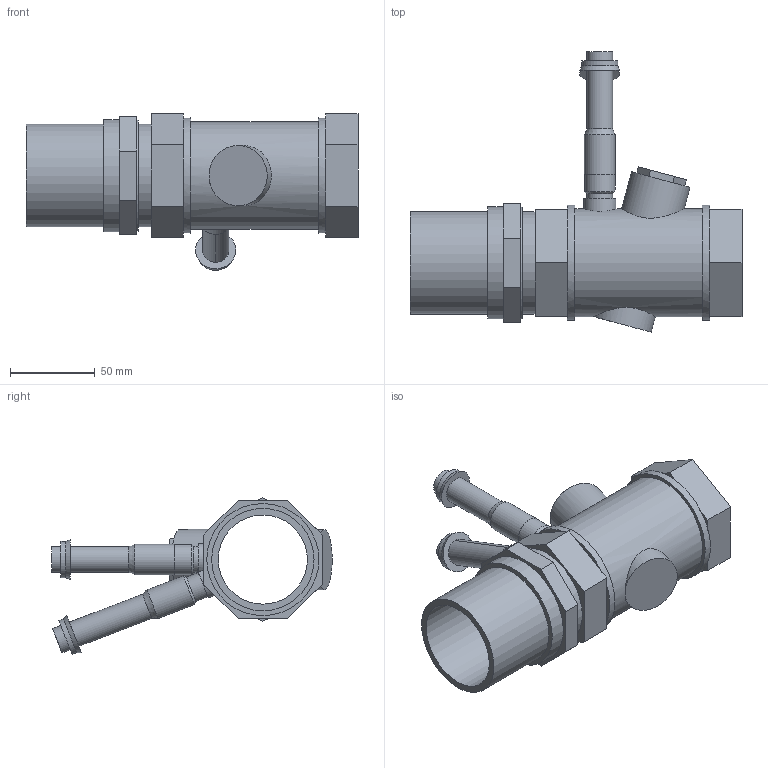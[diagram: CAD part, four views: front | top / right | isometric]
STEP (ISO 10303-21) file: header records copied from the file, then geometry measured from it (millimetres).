
FILE_DESCRIPTION(/* description */ ('VIC VALVE AUTO BALANCING SERIES 76K (SWTxFPT)','CAx-IF Rec.Pracs.---Representation and Presentation of Product Manufacturing Information (PMI)---4.0---2014-10-13'),/* implementation_level */ '2;1');
FILE_NAME(/* name */ 'C:\Users\kkamble\Desktop\KIRAN\2022\76B & 76K\76K\STEP\Victaulic_IPS_Valve Auto Balancing_Series 76K (SWTxFPT)\Victaulic_IPS_Valve Auto Balancing_Series 76K (SWTxFPT)_2 (50).stp',/* time_stamp */ '2022-03-04T13:34:23+05:00',/* author */ ('kkamble'),/* organization */ ('Victaulic'),/* preprocessor_version */ 'ST-DEVELOPER v17.2',/* originating_system */ 'Autodesk Inventor 2019',/* authorisation */ '');
FILE_SCHEMA (('AP242_MANAGED_MODEL_BASED_3D_ENGINEERING_MIM_LF { 1 0 10303 442 1 1 4 }'));
Length unit declared in the file: inch
Products named in the file (1): 76K-02.0
Bounding box: 195.58 x 165.08 x 92.36 mm (x, y, z)
Volume: 204569.1 mm3; surface area: 95688.2 mm2
Topology: 2 solids, 2 shells, 111 faces, 275 edges, 180 vertices
Faces by surface type: plane 73, cylinder 26, cone 12
Full cylindrical faces by diameter (mm): 15.24 x4, 17.78 x1, 18.034 x2, 21.336 x1, 35.56 x1, 52.502 x1, 60.325 x3, 63.5 x1, 66.04 x1, 67.945 x2
Entity records: 3751 total; most frequent: CARTESIAN_POINT 772, DIRECTION 640, ORIENTED_EDGE 550, EDGE_CURVE 275, AXIS2_PLACEMENT_3D 251, VERTEX_POINT 180, LINE 138, VECTOR 138
